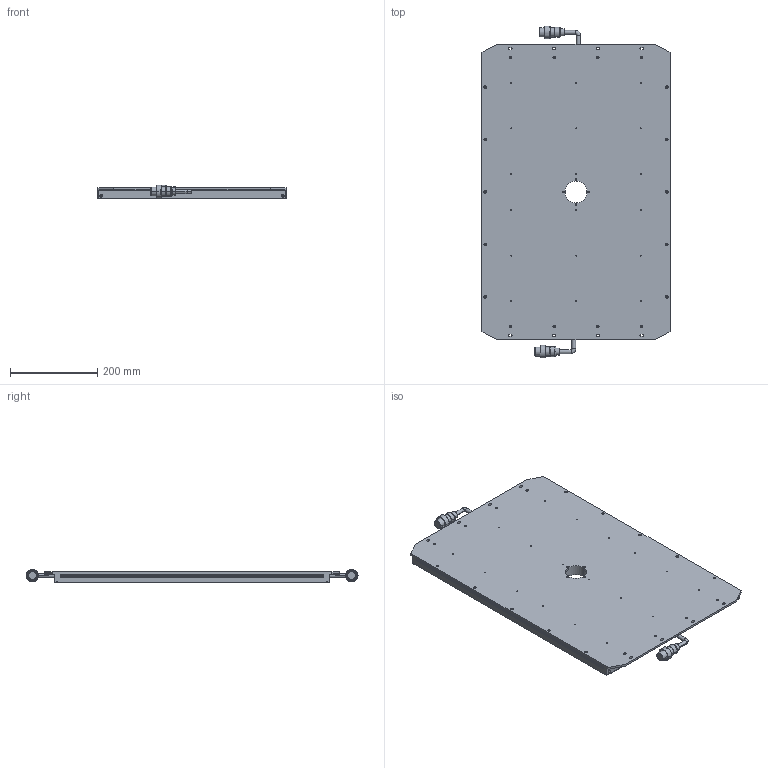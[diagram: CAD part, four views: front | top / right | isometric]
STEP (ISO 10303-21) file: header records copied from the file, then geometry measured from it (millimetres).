
FILE_DESCRIPTION((''),'2;1');
FILE_NAME('LS-LBES-H-600-400-X2','2022-11-04T17:44:18',('LumaSpec Vision'),('LumaSpec Vision'),'CREO PARAMETRIC BY PTC INC, 2020044','CREO PARAMETRIC BY PTC INC, 2020044','');
FILE_SCHEMA(('AUTOMOTIVE_DESIGN { 1 0 10303 214 1 1 1 1 }'));
Length unit declared in the file: millimetre
Products named in the file (1): PRT0001
Bounding box: 430 x 759.25 x 31.12 mm (x, y, z)
Volume: 6833133.9 mm3; surface area: 685796 mm2
Topology: 3 solids, 39 shells, 1702 faces, 3982 edges, 2409 vertices
Faces by surface type: plane 844, cylinder 511, cone 214, extrusion 73, torus 52, bspline 8
Entity records: 53627 total; most frequent: CARTESIAN_POINT 11473, DIRECTION 8073, ORIENTED_EDGE 7848, EDGE_CURVE 3924, AXIS2_PLACEMENT_3D 2803, VECTOR 2467, VERTEX_POINT 2409, LINE 2394
